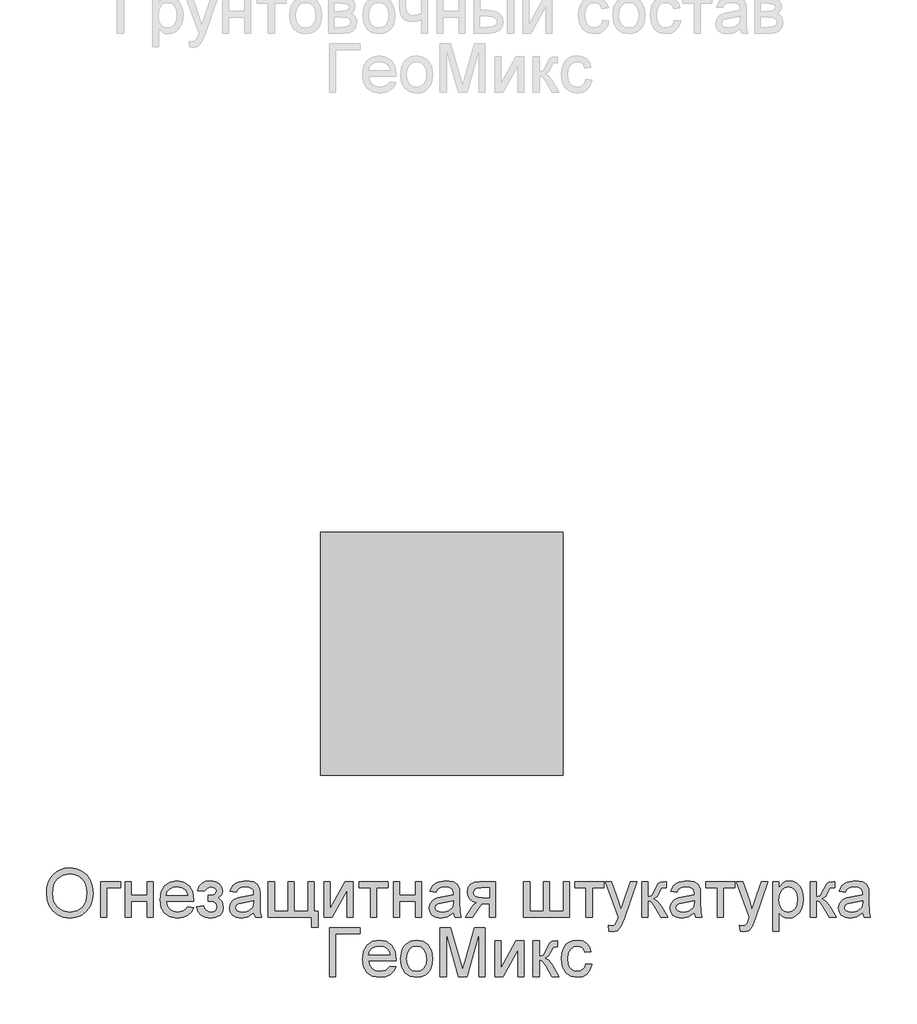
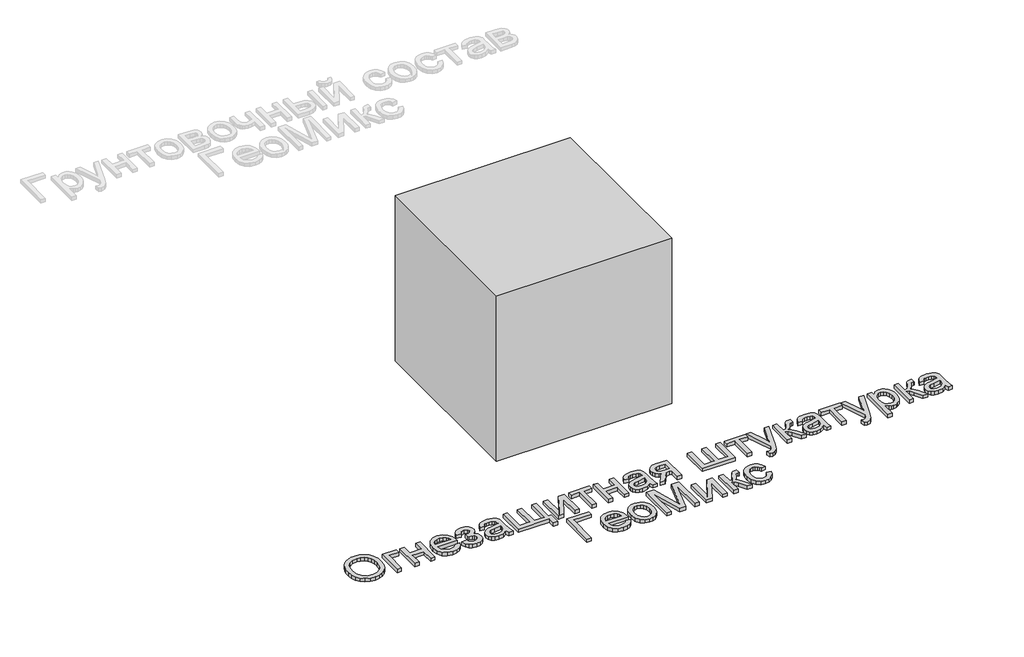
# One storey, part 9 of 35: 2 proxies.
"""IFC4 building model written with IfcOpenShell, lengths in millimetres."""

from ifc_helpers import new_model, si_unit, origin, origin_with_axes, place, context, project, spatial, polyline, outline, extrude, transform, mapped, element, save
from components import generic_models_0168a45e

model = new_model("IFC4")

# Units and contexts
model_context = context("Model", 3, world=origin())
ifc_project = project(units=[si_unit("LENGTHUNIT", "METRE", prefix="MILLI")], contexts=[model_context])

# Site, building, storey
site = spatial("IfcSite", under=ifc_project)
building = spatial("IfcBuilding", under=site)
storey = spatial("IfcBuildingStorey", under=building, Name="Этаж 01", Elevation=0.0)

# Proxies
placement = place(None, origin())
element("IfcBuildingElementProxy", 1, Name="400 мм Arial", ObjectType="400 мм Arial", at=placement, inside=storey, context=model_context, shape_type="SweptSolid", body=[
    extrude(outline(polyline([(272.1600459, -70416.6991199), (273.8339089, -70393.1332125), (278.8554982, -70372.2712377), (287.2248136, -70354.1131955), (298.9418551, -70338.659086), (313.3045813, -70326.3197108), (329.6109508, -70317.5058713), (347.8609634, -70312.2175676), (368.0546193, -70310.4547997), (394.4072329, -70313.7657377), (418.0375197, -70323.6985516), (437.6578928, -70339.5542656), (451.9807651, -70360.6339039), (460.7363566, -70385.9196597), (463.6548871, -70414.3937261), (460.5830724, -70443.2479373), (451.3676284, -70468.8893123), (436.5174586, -70490.0057388), (416.5414662, -70505.2851044), (393.1135145, -70514.5557307), (367.9074665, -70517.6459394), (341.1501827, -70514.2307682), (317.3850058, -70503.9852547), (297.8136837, -70487.8352351), (283.6379641, -70466.7065458), (275.0295254, -70442.3956773), (272.1600459, -70416.6991199)]), holes=[polyline([(297.2741234, -70416.9443746), (302.2957126, -70448.3737597), (317.3604803, -70472.3228776), (340.0036171, -70487.4796158), (367.7603137, -70492.5318619), (395.9216804, -70487.4305649), (418.6016054, -70472.1266739), (427.3250072, -70460.8541564), (433.5560085, -70447.441792), (438.5408095, -70414.1975224), (436.407094, -70391.9651871), (430.0059473, -70372.7494843), (419.5029163, -70357.0347917), (405.063548, -70345.3054874), (387.6443355, -70338.0030298), (368.2017721, -70335.5688773), (341.1869709, -70340.2593727), (318.2188717, -70354.330859), (309.0555443, -70365.2799469), (302.5103105, -70379.3652288), (297.2741234, -70416.9443746)])]), origin_with_axes(), (0.0, 0.0, 1.0), 20.0),
    extrude(outline(polyline([(495.047484, -70366.9614742), (576.668236, -70366.9614742), (576.668236, -70392.0755517), (520.1615615, -70392.0755517), (520.1615615, -70514.5066797), (495.047484, -70514.5066797), (495.047484, -70366.9614742)])), origin_with_axes(), (0.0, 0.0, 1.0), 20.0),
    extrude(outline(polyline([(595.5037942, -70366.9614742), (620.6178717, -70366.9614742), (620.6178717, -70423.4681487), (686.5423252, -70423.4681487), (686.5423252, -70366.9614742), (711.6564028, -70366.9614742), (711.6564028, -70514.5066797), (686.5423252, -70514.5066797), (686.5423252, -70448.5822262), (620.6178717, -70448.5822262), (620.6178717, -70514.5066797), (595.5037942, -70514.5066797), (595.5037942, -70366.9614742)])), origin_with_axes(), (0.0, 0.0, 1.0), 20.0),
    extrude(outline(polyline([(852.6287833, -70470.557044), (877.2523515, -70473.6963037), (868.3802641, -70492.249819), (854.2229386, -70506.1189702), (835.0992062, -70514.7641971), (811.327898, -70517.6459394), (781.8605502, -70512.6734011), (759.1867565, -70497.7557862), (744.7289941, -70473.8618506), (739.90974, -70441.9603503), (744.7780451, -70408.9858608), (759.3829603, -70384.3255044), (781.7501856, -70368.948037), (809.9054209, -70363.8222145), (837.1838709, -70368.9357742), (858.9808791, -70384.2764534), (873.2730946, -70408.8877589), (878.0371665, -70441.8131975), (877.8900137, -70448.5822262), (765.0238175, -70448.5822262), (769.3709564, -70467.3809961), (779.4693172, -70481.2010964), (794.0435756, -70489.6991705), (811.8184073, -70492.5318619), (836.4419755, -70487.2834121), (845.5899745, -70480.4775952), (852.6287833, -70470.557044)]), holes=[polyline([(765.0238175, -70423.4681487), (852.9230889, -70423.4681487), (849.5263118, -70410.1998714), (842.8676477, -70400.7085159), (828.2259443, -70391.879348), (809.8073191, -70388.936292), (792.8786159, -70391.2846054), (778.880706, -70398.3295456), (769.1502272, -70409.3108232), (765.0238175, -70423.4681487)])]), origin_with_axes(), (0.0, 0.0, 1.0), 20.0),
    extrude(outline(polyline([(937.6831006, -70448.5822262), (937.6831006, -70423.4681487), (957.4996774, -70422.48713), (967.5060677, -70417.2632057), (972.2149572, -70406.3493731), (970.639196, -70399.2063311), (965.9119124, -70393.669707), (949.6515282, -70388.936292), (932.8515837, -70393.6451816), (921.9868021, -70407.7718502), (893.7334649, -70404.6325905), (901.2259949, -70386.778051), (912.618074, -70374.0248085), (927.9097023, -70366.372863), (947.1008797, -70363.8222145), (968.0946789, -70366.9308174), (983.9871811, -70376.2566259), (993.9935713, -70389.8989166), (997.3290348, -70405.9569657), (992.583357, -70421.5551623), (978.3463238, -70433.6216917), (994.9500645, -70449.2689392), (1000.4682944, -70471.7833174), (996.9672841, -70490.2693876), (986.4642532, -70504.9172224), (969.6704401, -70514.4637602), (947.2970834, -70517.6459394), (925.4142361, -70514.7028835), (908.6694739, -70505.8737156), (897.062797, -70491.1584358), (890.5942052, -70470.557044), (918.8475425, -70467.4177843), (923.0781854, -70478.0373113), (930.1783079, -70485.9590369), (939.3263068, -70490.8886556), (949.7005791, -70492.5318619), (959.8050712, -70490.9561007), (968.0456279, -70486.228817), (973.5270697, -70479.0489868), (975.3542169, -70470.1155856), (970.8170056, -70456.9208847), (961.1539719, -70449.8575504), (942.5881939, -70448.4350734), (937.6831006, -70448.5822262)])), origin_with_axes(), (0.0, 0.0, 1.0), 20.0),
    extrude(outline(polyline([(1126.0386821, -70495.6711216), (1101.6848941, -70512.6917952), (1074.7804575, -70517.6459394), (1053.7927896, -70514.6660953), (1038.311089, -70505.7265628), (1028.7645512, -70492.1517172), (1025.582372, -70475.2659336), (1030.3893634, -70455.4003058), (1043.0199786, -70440.9793316), (1060.6047379, -70432.7387749), (1082.3343011, -70428.9618531), (1125.8915293, -70420.328889), (1126.0386821, -70414.7370826), (1124.3096368, -70403.5289445), (1119.1225006, -70396.1958301), (1107.521955, -70390.7511765), (1091.3596727, -70388.936292), (1076.3991383, -70390.1441713), (1065.9512896, -70393.7678089), (1058.8266416, -70400.4693926), (1053.8357092, -70410.9111099), (1028.7216317, -70407.7718502), (1039.5864133, -70383.2463838), (1048.8447768, -70374.9935644), (1061.4631292, -70368.8744606), (1094.5970343, -70363.8222145), (1125.033138, -70368.2858494), (1142.2254899, -70379.4939875), (1149.9264864, -70396.5391866), (1151.1527597, -70418.5140045), (1151.1527597, -70449.7594486), (1152.4280839, -70493.3902532), (1157.4312791, -70514.5066797), (1132.3172015, -70514.5066797), (1126.0386821, -70495.6711216)]), holes=[polyline([(1126.0386821, -70445.4429665), (1085.5226117, -70453.1439629), (1063.9156759, -70457.2151903), (1054.1300148, -70463.8370663), (1050.6964495, -70473.5001), (1052.5665163, -70480.9681045), (1058.1767168, -70487.0872084), (1067.4044235, -70491.1706985), (1080.1270091, -70492.5318619), (1093.6160156, -70491.0296771), (1105.5353923, -70486.5231226), (1121.9184038, -70471.9795211), (1125.8915293, -70452.5553517), (1126.0386821, -70445.4429665)])]), origin_with_axes(), (0.0, 0.0, 1.0), 20.0),
    extrude(outline(polyline([(1185.6846163, -70366.9614742), (1210.7986938, -70366.9614742), (1210.7986938, -70489.3926022), (1267.3053683, -70489.3926022), (1267.3053683, -70366.9614742), (1292.4194458, -70366.9614742), (1292.4194458, -70489.3926022), (1348.9261203, -70489.3926022), (1348.9261203, -70366.9614742), (1374.0401978, -70366.9614742), (1374.0401978, -70489.3926022), (1389.7364963, -70489.3926022), (1389.7364963, -70555.3170557), (1364.6224187, -70555.3170557), (1364.6224187, -70514.5066797), (1185.6846163, -70514.5066797), (1185.6846163, -70366.9614742)])), origin_with_axes(), (0.0, 0.0, 1.0), 20.0),
    extrude(outline(polyline([(1414.8505738, -70366.9614742), (1439.9646514, -70366.9614742), (1439.9646514, -70479.4843138), (1501.6707247, -70366.9614742), (1534.1424421, -70366.9614742), (1534.1424421, -70514.5066797), (1509.0283646, -70514.5066797), (1509.0283646, -70402.6705532), (1447.7146987, -70514.5066797), (1414.8505738, -70514.5066797), (1414.8505738, -70366.9614742)])), origin_with_axes(), (0.0, 0.0, 1.0), 20.0),
    extrude(outline(polyline([(1559.2565197, -70366.9614742), (1678.548388, -70366.9614742), (1678.548388, -70392.0755517), (1631.4594926, -70392.0755517), (1631.4594926, -70514.5066797), (1606.345415, -70514.5066797), (1606.345415, -70392.0755517), (1559.2565197, -70392.0755517), (1559.2565197, -70366.9614742)])), origin_with_axes(), (0.0, 0.0, 1.0), 20.0),
    extrude(outline(polyline([(1700.5232058, -70366.9614742), (1725.6372833, -70366.9614742), (1725.6372833, -70423.4681487), (1791.5617369, -70423.4681487), (1791.5617369, -70366.9614742), (1816.6758144, -70366.9614742), (1816.6758144, -70514.5066797), (1791.5617369, -70514.5066797), (1791.5617369, -70448.5822262), (1725.6372833, -70448.5822262), (1725.6372833, -70514.5066797), (1700.5232058, -70514.5066797), (1700.5232058, -70366.9614742)])), origin_with_axes(), (0.0, 0.0, 1.0), 20.0),
    extrude(outline(polyline([(1948.5247215, -70495.6711216), (1924.1709334, -70512.6917952), (1897.2664968, -70517.6459394), (1876.278829, -70514.6660953), (1860.7971284, -70505.7265628), (1851.2505906, -70492.1517172), (1848.0684113, -70475.2659336), (1852.8754027, -70455.4003058), (1865.5060179, -70440.9793316), (1883.0907773, -70432.7387749), (1904.8203405, -70428.9618531), (1948.3775687, -70420.328889), (1948.5247215, -70414.7370826), (1946.7956761, -70403.5289445), (1941.60854, -70396.1958301), (1930.0079944, -70390.7511765), (1913.8457121, -70388.936292), (1898.8851776, -70390.1441713), (1888.4373289, -70393.7678089), (1881.312681, -70400.4693926), (1876.3217486, -70410.9111099), (1851.207671, -70407.7718502), (1862.0724526, -70383.2463838), (1871.3308162, -70374.9935644), (1883.9491686, -70368.8744606), (1917.0830736, -70363.8222145), (1947.5191774, -70368.2858494), (1964.7115293, -70379.4939875), (1972.4125257, -70396.5391866), (1973.638799, -70418.5140045), (1973.638799, -70449.7594486), (1974.9141233, -70493.3902532), (1979.9173184, -70514.5066797), (1954.8032409, -70514.5066797), (1948.5247215, -70495.6711216)]), holes=[polyline([(1948.5247215, -70445.4429665), (1908.0086511, -70453.1439629), (1886.4017152, -70457.2151903), (1876.6160542, -70463.8370663), (1873.1824889, -70473.5001), (1875.0525557, -70480.9681045), (1880.6627561, -70487.0872084), (1889.8904628, -70491.1706985), (1902.6130485, -70492.5318619), (1916.102055, -70491.0296771), (1928.0214316, -70486.5231226), (1944.4044431, -70471.9795211), (1948.3775687, -70452.5553517), (1948.5247215, -70445.4429665)])]), origin_with_axes(), (0.0, 0.0, 1.0), 20.0),
    extrude(outline(polyline([(2121.1840046, -70366.9614742), (2121.1840046, -70514.5066797), (2096.069927, -70514.5066797), (2096.069927, -70458.0000053), (2082.3847168, -70458.0000053), (2063.7453624, -70461.1883159), (2046.2341794, -70482.6235735), (2026.2213989, -70514.5066797), (1997.1832467, -70514.5066797), (2022.3954261, -70474.1868131), (2033.5299878, -70459.7167879), (2043.7816328, -70453.2911157), (2026.6138063, -70448.0304032), (2014.5472769, -70438.0362757), (2007.4103662, -70424.7434729), (2005.0313959, -70409.5867347), (2008.2810202, -70392.3943828), (2018.0298931, -70378.782749), (2033.934658, -70369.9167929), (2055.6519585, -70366.9614742), (2121.1840046, -70366.9614742)]), holes=[polyline([(2096.069927, -70392.0755517), (2062.9605475, -70392.0755517), (2045.860166, -70393.5286856), (2036.1542127, -70397.8880873), (2030.1454735, -70411.4997211), (2032.3588968, -70421.0707843), (2038.9991668, -70427.7110543), (2051.2680314, -70431.5922094), (2070.3672383, -70432.8859277), (2096.069927, -70432.8859277), (2096.069927, -70392.0755517)])]), origin_with_axes(), (0.0, 0.0, 1.0), 20.0),
    extrude(outline(polyline([(2237.3366132, -70366.9614742), (2262.4506907, -70366.9614742), (2262.4506907, -70489.3926022), (2318.9573652, -70489.3926022), (2318.9573652, -70366.9614742), (2344.0714427, -70366.9614742), (2344.0714427, -70489.3926022), (2400.5781172, -70489.3926022), (2400.5781172, -70366.9614742), (2425.6921947, -70366.9614742), (2425.6921947, -70514.5066797), (2237.3366132, -70514.5066797), (2237.3366132, -70366.9614742)])), origin_with_axes(), (0.0, 0.0, 1.0), 20.0),
    extrude(outline(polyline([(2447.6670125, -70366.9614742), (2566.9588808, -70366.9614742), (2566.9588808, -70392.0755517), (2519.8699855, -70392.0755517), (2519.8699855, -70514.5066797), (2494.7559079, -70514.5066797), (2494.7559079, -70392.0755517), (2447.6670125, -70392.0755517), (2447.6670125, -70366.9614742)])), origin_with_axes(), (0.0, 0.0, 1.0), 20.0),
    extrude(outline(polyline([(2588.9336987, -70571.0133542), (2585.794439, -70546.8312444), (2598.5476815, -70549.0385363), (2610.4670581, -70546.2671586), (2617.7756471, -70538.5416367), (2624.6427777, -70520.0494351), (2626.604815, -70513.9671195), (2573.2374002, -70366.9614742), (2599.7249039, -70366.9614742), (2628.027292, -70448.8765318), (2637.8865295, -70481.6425548), (2647.745767, -70452.7025045), (2676.8329701, -70366.9614742), (2703.12427, -70366.9614742), (2651.7679435, -70518.0383469), (2638.4260898, -70550.8043699), (2623.8579628, -70568.5117566), (2604.2866406, -70574.1526139), (2588.9336987, -70571.0133542)])), origin_with_axes(), (0.0, 0.0, 1.0), 20.0),
    extrude(outline(polyline([(2723.9218655, -70366.9614742), (2749.035943, -70366.9614742), (2749.035943, -70429.746668), (2765.8604129, -70425.2339822), (2779.643725, -70398.9426823), (2791.0971178, -70376.2566259), (2801.2016099, -70368.8744606), (2819.5711842, -70366.9614742), (2824.3781756, -70366.9614742), (2824.3781756, -70392.2227045), (2817.6091469, -70392.0755517), (2805.3464137, -70394.7243021), (2796.7134496, -70411.2544664), (2786.584432, -70429.1335314), (2772.3841869, -70437.8891229), (2788.2276382, -70447.6625212), (2803.7767839, -70468.2516502), (2830.656695, -70514.5066797), (2802.1090522, -70514.5066797), (2775.7687013, -70469.2326689), (2762.5249495, -70450.0782796), (2749.035943, -70445.4429665), (2749.035943, -70514.5066797), (2723.9218655, -70514.5066797), (2723.9218655, -70366.9614742)])), origin_with_axes(), (0.0, 0.0, 1.0), 20.0),
    extrude(outline(polyline([(2940.5307842, -70495.6711216), (2916.1769961, -70512.6917952), (2889.2725596, -70517.6459394), (2868.2848917, -70514.6660953), (2852.8031911, -70505.7265628), (2843.2566533, -70492.1517172), (2840.0744741, -70475.2659336), (2844.8814655, -70455.4003058), (2857.5120806, -70440.9793316), (2875.09684, -70432.7387749), (2896.8264032, -70428.9618531), (2940.3836314, -70420.328889), (2940.5307842, -70414.7370826), (2938.8017388, -70403.5289445), (2933.6146027, -70396.1958301), (2922.0140571, -70390.7511765), (2905.8517748, -70388.936292), (2890.8912403, -70390.1441713), (2880.4433917, -70393.7678089), (2873.3187437, -70400.4693926), (2868.3278113, -70410.9111099), (2843.2137338, -70407.7718502), (2854.0785153, -70383.2463838), (2863.3368789, -70374.9935644), (2875.9552313, -70368.8744606), (2909.0891364, -70363.8222145), (2939.5252401, -70368.2858494), (2956.717592, -70379.4939875), (2964.4185884, -70396.5391866), (2965.6448617, -70418.5140045), (2965.6448617, -70449.7594486), (2966.920186, -70493.3902532), (2971.9233811, -70514.5066797), (2946.8093036, -70514.5066797), (2940.5307842, -70495.6711216)]), holes=[polyline([(2940.5307842, -70445.4429665), (2900.0147138, -70453.1439629), (2878.407778, -70457.2151903), (2868.6221169, -70463.8370663), (2865.1885516, -70473.5001), (2867.0586184, -70480.9681045), (2872.6688188, -70487.0872084), (2881.8965255, -70491.1706985), (2894.6191112, -70492.5318619), (2908.1081177, -70491.0296771), (2920.0274943, -70486.5231226), (2936.4105059, -70471.9795211), (2940.3836314, -70452.5553517), (2940.5307842, -70445.4429665)])]), origin_with_axes(), (0.0, 0.0, 1.0), 20.0),
    extrude(outline(polyline([(2987.6196796, -70366.9614742), (3106.9115479, -70366.9614742), (3106.9115479, -70392.0755517), (3059.8226525, -70392.0755517), (3059.8226525, -70514.5066797), (3034.708575, -70514.5066797), (3034.708575, -70392.0755517), (2987.6196796, -70392.0755517), (2987.6196796, -70366.9614742)])), origin_with_axes(), (0.0, 0.0, 1.0), 20.0),
    extrude(outline(polyline([(3128.8863657, -70571.0133542), (3125.747106, -70546.8312444), (3138.5003485, -70549.0385363), (3150.4197252, -70546.2671586), (3157.7283142, -70538.5416367), (3164.5954447, -70520.0494351), (3166.557482, -70513.9671195), (3113.1900673, -70366.9614742), (3139.6775709, -70366.9614742), (3167.9799591, -70448.8765318), (3177.8391966, -70481.6425548), (3187.698434, -70452.7025045), (3216.7856371, -70366.9614742), (3243.076937, -70366.9614742), (3191.7206105, -70518.0383469), (3178.3787568, -70550.8043699), (3163.8106298, -70568.5117566), (3144.2393077, -70574.1526139), (3128.8863657, -70571.0133542)])), origin_with_axes(), (0.0, 0.0, 1.0), 20.0),
    extrude(outline(polyline([(3263.8745325, -70571.0133542), (3263.8745325, -70366.9614742), (3288.98861, -70366.9614742), (3288.98861, -70391.5850424), (3306.3526402, -70370.7629215), (3317.0457435, -70365.5573912), (3329.798986, -70363.8222145), (3346.7828715, -70366.2502357), (3361.6330414, -70373.5342992), (3373.7240963, -70385.2329466), (3382.4306368, -70400.9047196), (3387.6913493, -70419.409184), (3389.4449202, -70439.6059055), (3387.4644888, -70461.0840827), (3381.5231946, -70480.2936542), (3371.8111099, -70496.2597328), (3358.5183071, -70508.0074311), (3343.0366065, -70515.2363124), (3326.7578282, -70517.6459394), (3315.2124649, -70516.03339), (3304.9056377, -70511.1957418), (3288.98861, -70494.8863067), (3288.98861, -70571.0133542), (3263.8745325, -70571.0133542)]), holes=[polyline([(3288.98861, -70441.9112993), (3291.7048054, -70464.4256774), (3299.8533916, -70480.1710268), (3311.8770015, -70489.4416531), (3326.218268, -70492.5318619), (3340.7925263, -70489.3312885), (3353.1227045, -70479.7295684), (3361.5288081, -70463.4078706), (3364.3308427, -70440.0473639), (3361.5962532, -70417.6556131), (3353.3924847, -70401.6895345), (3341.3872689, -70392.1246027), (3327.2483375, -70388.936292), (3313.0542239, -70392.3269378), (3300.5891556, -70402.4988749), (3291.8887464, -70419.1332725), (3288.98861, -70441.9112993)])]), origin_with_axes(), (0.0, 0.0, 1.0), 20.0),
    extrude(outline(polyline([(3417.6982574, -70366.9614742), (3442.812335, -70366.9614742), (3442.812335, -70429.746668), (3459.6368049, -70425.2339822), (3473.420117, -70398.9426823), (3484.8735097, -70376.2566259), (3494.9780019, -70368.8744606), (3513.3475762, -70366.9614742), (3518.1545676, -70366.9614742), (3518.1545676, -70392.2227045), (3511.3855389, -70392.0755517), (3499.1228057, -70394.7243021), (3490.4898415, -70411.2544664), (3480.3608239, -70429.1335314), (3466.1605789, -70437.8891229), (3482.0040302, -70447.6625212), (3497.5531758, -70468.2516502), (3524.433087, -70514.5066797), (3495.8854441, -70514.5066797), (3469.5450933, -70469.2326689), (3456.3013414, -70450.0782796), (3442.812335, -70445.4429665), (3442.812335, -70514.5066797), (3417.6982574, -70514.5066797), (3417.6982574, -70366.9614742)])), origin_with_axes(), (0.0, 0.0, 1.0), 20.0),
    extrude(outline(polyline([(3634.3071762, -70495.6711216), (3609.9533881, -70512.6917952), (3583.0489515, -70517.6459394), (3562.0612837, -70514.6660953), (3546.5795831, -70505.7265628), (3537.0330453, -70492.1517172), (3533.850866, -70475.2659336), (3538.6578574, -70455.4003058), (3551.2884726, -70440.9793316), (3568.873232, -70432.7387749), (3590.6027952, -70428.9618531), (3634.1600234, -70420.328889), (3634.3071762, -70414.7370826), (3632.5781308, -70403.5289445), (3627.3909947, -70396.1958301), (3615.7904491, -70390.7511765), (3599.6281668, -70388.936292), (3584.6676323, -70390.1441713), (3574.2197836, -70393.7678089), (3567.0951357, -70400.4693926), (3562.1042033, -70410.9111099), (3536.9901257, -70407.7718502), (3547.8549073, -70383.2463838), (3557.1132709, -70374.9935644), (3569.7316233, -70368.8744606), (3602.8655283, -70363.8222145), (3633.3016321, -70368.2858494), (3650.493984, -70379.4939875), (3658.1949804, -70396.5391866), (3659.4212537, -70418.5140045), (3659.4212537, -70449.7594486), (3660.696578, -70493.3902532), (3665.6997731, -70514.5066797), (3640.5856956, -70514.5066797), (3634.3071762, -70495.6711216)]), holes=[polyline([(3634.3071762, -70445.4429665), (3593.7911058, -70453.1439629), (3572.1841699, -70457.2151903), (3562.3985089, -70463.8370663), (3558.9649436, -70473.5001), (3560.8350104, -70480.9681045), (3566.4452108, -70487.0872084), (3575.6729175, -70491.1706985), (3588.3955032, -70492.5318619), (3601.8845097, -70491.0296771), (3613.8038863, -70486.5231226), (3630.1868978, -70471.9795211), (3634.1600234, -70452.5553517), (3634.3071762, -70445.4429665)])]), origin_with_axes(), (0.0, 0.0, 1.0), 20.0),
    extrude(outline(polyline([(1438.3950215, -70557.5436951), (1563.9654092, -70557.5436951), (1563.9654092, -70582.6577727), (1463.509099, -70582.6577727), (1463.509099, -70758.4563154), (1438.3950215, -70758.4563154), (1438.3950215, -70557.5436951)])), origin_with_axes(), (0.0, 0.0, 1.0), 20.0),
    extrude(outline(polyline([(1686.1022316, -70714.5066797), (1710.7257998, -70717.6459394), (1701.8537124, -70736.1994547), (1687.6963869, -70750.0686059), (1668.5726545, -70758.7138328), (1644.8013463, -70761.5955751), (1615.3339985, -70756.6230368), (1592.6602048, -70741.7054219), (1578.2024424, -70717.8114863), (1573.3831883, -70685.909986), (1578.2514933, -70652.9354965), (1592.8564085, -70628.2751401), (1615.2236339, -70612.8976727), (1643.3788692, -70607.7718502), (1670.6573192, -70612.8854099), (1692.4543274, -70628.2260891), (1706.7465429, -70652.8373946), (1711.5106147, -70685.7628332), (1711.3634619, -70692.5318619), (1598.4972658, -70692.5318619), (1602.8444047, -70711.3306318), (1612.9427655, -70725.1507321), (1627.5170239, -70733.6488062), (1645.2918556, -70736.4814976), (1669.9154238, -70731.2330478), (1679.0634228, -70724.4272309), (1686.1022316, -70714.5066797)]), holes=[polyline([(1598.4972658, -70667.4177843), (1686.3965372, -70667.4177843), (1682.9997601, -70654.1495071), (1676.341096, -70644.6581516), (1661.6993926, -70635.8289837), (1643.2807674, -70632.8859277), (1626.3520642, -70635.2342411), (1612.3541543, -70642.2791813), (1602.6236755, -70653.2604589), (1598.4972658, -70667.4177843)])]), origin_with_axes(), (0.0, 0.0, 1.0), 20.0),
    extrude(outline(polyline([(1730.3461729, -70684.6837127), (1735.7785637, -70649.1095237), (1742.5690522, -70635.2863577), (1752.0757361, -70624.1058108), (1772.2111439, -70611.8553403), (1796.3196773, -70607.7718502), (1822.7029478, -70612.7443885), (1843.7764547, -70627.6620034), (1857.5904236, -70651.3474725), (1862.1950799, -70682.6235735), (1860.1594662, -70707.9951684), (1854.0526251, -70727.3089732), (1844.0523662, -70741.7728669), (1830.3364992, -70752.594729), (1814.0454581, -70759.3453636), (1796.3196773, -70761.5955751), (1769.6175759, -70756.6414309), (1748.5685944, -70741.7789983), (1734.9017783, -70717.5968885), (1730.3461729, -70684.6837127)]), holes=[polyline([(1755.4602504, -70684.6346617), (1758.3665182, -70707.3636377), (1767.0853215, -70723.5565768), (1780.206446, -70733.2502674), (1796.3196773, -70736.4814976), (1812.3593323, -70733.2318733), (1825.4559314, -70723.4830004), (1834.1747347, -70707.0754634), (1837.0810024, -70683.8498468), (1834.1563406, -70661.7830585), (1825.382355, -70645.8108485), (1812.2673618, -70636.1171579), (1796.3196773, -70632.8859277), (1780.206446, -70636.1048952), (1767.0853215, -70645.7617976), (1758.3665182, -70661.9179485), (1755.4602504, -70684.6346617)])]), origin_with_axes(), (0.0, 0.0, 1.0), 20.0),
    extrude(outline(polyline([(1893.5876769, -70758.4563154), (1893.5876769, -70557.5436951), (1936.8015486, -70557.5436951), (1977.9062302, -70699.1537378), (1986.1958378, -70728.7314502), (1995.1721585, -70696.7011912), (2035.590127, -70557.5436951), (2078.8039987, -70557.5436951), (2078.8039987, -70758.4563154), (2053.6899212, -70758.4563154), (2053.6899212, -70582.6577727), (2003.2165114, -70758.4563154), (1969.1751641, -70758.4563154), (1918.7017544, -70582.6577727), (1918.7017544, -70758.4563154), (1893.5876769, -70758.4563154)])), origin_with_axes(), (0.0, 0.0, 1.0), 20.0),
    extrude(outline(polyline([(2119.6143747, -70610.9111099), (2144.7284522, -70610.9111099), (2144.7284522, -70723.4339495), (2206.4345256, -70610.9111099), (2238.906243, -70610.9111099), (2238.906243, -70758.4563154), (2213.7921655, -70758.4563154), (2213.7921655, -70646.6201889), (2152.4784996, -70758.4563154), (2119.6143747, -70758.4563154), (2119.6143747, -70610.9111099)])), origin_with_axes(), (0.0, 0.0, 1.0), 20.0),
    extrude(outline(polyline([(2276.5773593, -70610.9111099), (2301.6914369, -70610.9111099), (2301.6914369, -70673.6963037), (2318.5159068, -70669.1836179), (2332.2992189, -70642.892318), (2343.7526116, -70620.2062616), (2353.8571038, -70612.8240963), (2372.2266781, -70610.9111099), (2377.0336695, -70610.9111099), (2377.0336695, -70636.1723402), (2370.2646408, -70636.0251874), (2358.0019076, -70638.6739378), (2349.3689434, -70655.2041021), (2339.2399258, -70673.0831671), (2325.0396808, -70681.8387586), (2340.8831321, -70691.6121569), (2356.4322777, -70712.2012859), (2383.3121889, -70758.4563154), (2354.764546, -70758.4563154), (2328.4241952, -70713.1823045), (2315.1804433, -70694.0279153), (2301.6914369, -70689.3926022), (2301.6914369, -70758.4563154), (2276.5773593, -70758.4563154), (2276.5773593, -70610.9111099)])), origin_with_axes(), (0.0, 0.0, 1.0), 20.0),
    extrude(outline(polyline([(2493.1862781, -70705.0889007), (2518.3003556, -70708.2281603), (2511.298335, -70730.5647288), (2498.1404223, -70747.444381), (2480.0651536, -70758.0577766), (2458.3110649, -70761.5955751), (2431.5967007, -70756.659825), (2410.7071348, -70741.8525747), (2397.2242596, -70717.823749), (2392.7299679, -70685.2232729), (2394.6490857, -70662.8744417), (2400.4064389, -70643.5054547), (2410.0939981, -70627.8643385), (2423.8037338, -70616.6991199), (2440.2051394, -70610.0036676), (2457.9677084, -70607.7718502), (2479.1883682, -70610.8375335), (2496.1538595, -70620.0345834), (2508.3246222, -70634.8724905), (2515.1610959, -70654.8607456), (2490.0470184, -70658.0000053), (2485.491413, -70647.0432532), (2478.3974219, -70639.1889726), (2469.1574524, -70634.4616889), (2458.1639121, -70632.8859277), (2441.9341848, -70635.9883992), (2429.0521836, -70645.2958137), (2420.64608, -70661.3109432), (2417.8440455, -70684.5365599), (2420.5847663, -70708.0748762), (2428.8069289, -70724.145188), (2441.4559382, -70733.3974202), (2457.4771991, -70736.4814976), (2470.4818276, -70734.5562485), (2481.1442741, -70728.7805011), (2488.9004528, -70719.0071028), (2493.1862781, -70705.0889007)])), origin_with_axes(), (0.0, 0.0, 1.0), 20.0),
])
generic_models_shape = generic_models_0168a45e(model_context)
element("IfcBuildingElementProxy", 2, Name="Куб(материал) : 1000х1000", ObjectType="Куб(материал) : 1000х1000", at=placement, inside=storey, context=model_context, shape_type="MappedRepresentation", body=[
    mapped(generic_models_shape, transform((2400.0, -68929.5809605, 0.0), x_axis=(1.0, 0.0, 0.0), y_axis=(0.0, 1.0, 0.0), z_axis=(0.0, 0.0, 1.0))),
])

save(model, "model.ifc")
